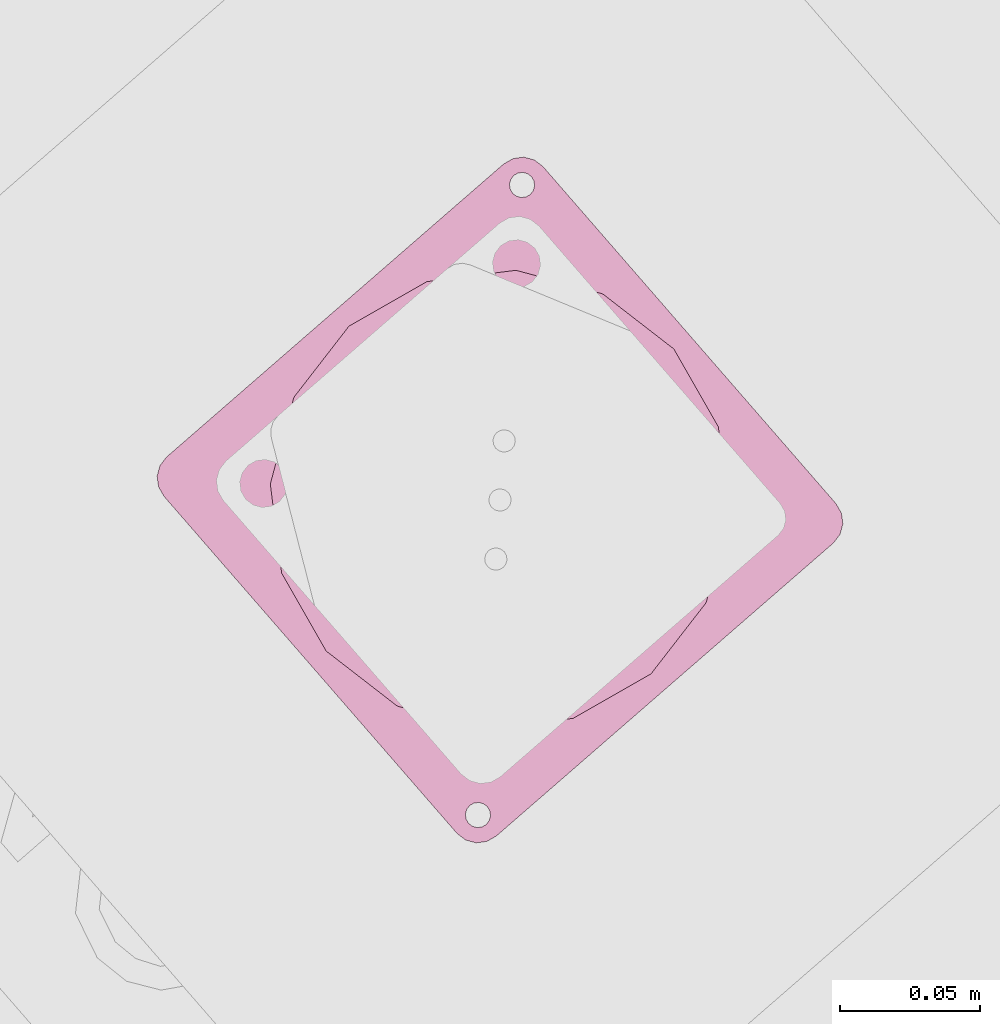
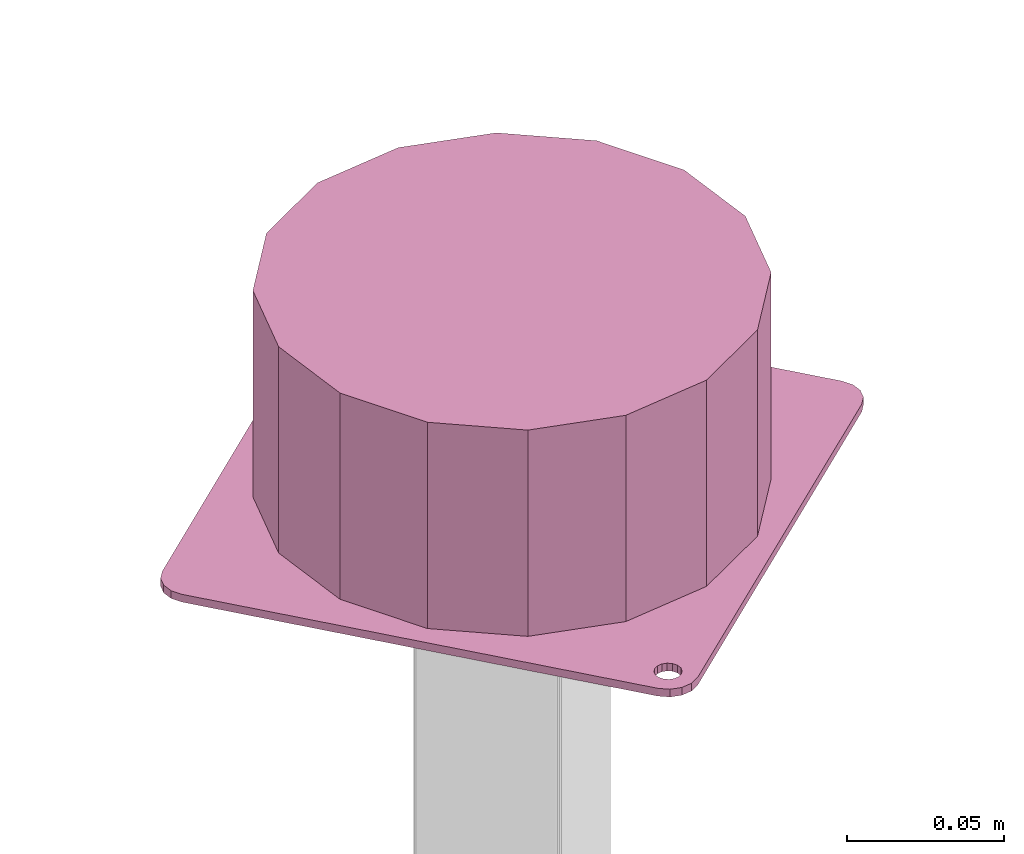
# One storey, part 122 of 124: 1 transport element.
"""IFC2X3 building model written with IfcOpenShell, lengths in millimetres."""

import ifcopenshell
import ifcopenshell.guid

model = None  # the IFC model being written
_history = None  # IfcOwnerHistory: only IFC2X3 demands one
_inside = {}  # id of a spatial element -> (the spatial element, [elements in it])
_under = {}  # id of a project, library or spatial element -> (it, [spatial elements below it])
_declared = {}  # id of a project -> (the project, [libraries it declares])
_typed = {}  # id of a type object -> (the type object, [elements of that type])
_made_of = {}  # id of a material, layer set ... -> (it, [elements and type objects made of it])


def new_model(schema):
    """Start an empty IFC model of exactly this schema.

    Asked for "IFC4X3", IfcOpenShell would pick the latest addendum, in which some entities
    have other attributes; the version numbers below select the first issue.
    IFC2X3 requires an IfcOwnerHistory on every rooted entity: one is made here for all.
    """
    global model, _history
    if schema == "IFC4X3":
        model = ifcopenshell.file(schema_version=(4, 3, 0, 0))
    else:
        model = ifcopenshell.file(schema=schema)
    _inside.clear()
    _under.clear()
    _declared.clear()
    _typed.clear()
    _made_of.clear()
    _history = None
    if model.schema == "IFC2X3":
        org = make("IfcOrganization", Name="unknown")
        user = make(
            "IfcPersonAndOrganization",
            ThePerson=make("IfcPerson", FamilyName="unknown"),
            TheOrganization=org,
        )
        app = make(
            "IfcApplication",
            ApplicationDeveloper=org,
            Version="unknown",
            ApplicationFullName="unknown",
            ApplicationIdentifier="unknown",
        )
        _history = make(
            "IfcOwnerHistory",
            OwningUser=user,
            OwningApplication=app,
            ChangeAction="ADDED",
            CreationDate=0,
        )
    return model


def make(cls, **values):
    """One entity of the class cls with the attributes given. An attribute that is None is left unset."""
    return model.create_entity(
        cls, **{name: value for name, value in values.items() if value is not None}
    )


def entity(cls, *values):
    """Any entity or typed value of the class cls, its attributes in the order of the schema. None: left unset."""
    e = model.create_entity(cls)
    for i, value in enumerate(values):
        if value is not None:
            e[i] = value
    return e


def rooted(cls, **values):
    """An entity with a GlobalId (a new one), such as an element, a storey or a relation."""
    return make(cls, GlobalId=ifcopenshell.guid.new(), OwnerHistory=_history, **values)


def si_unit(unit_type, name, prefix=None):
    """IfcSIUnit, for example si_unit("LENGTHUNIT", "METRE", prefix="MILLI")."""
    return make("IfcSIUnit", UnitType=unit_type, Prefix=prefix, Name=name)


def converted_unit(unit_type, name, factor, base, dimensions=None, offset=None):
    """IfcConversionBasedUnit, such as the inch: factor (a typed value) times the base unit."""
    return make(
        "IfcConversionBasedUnit"
        if offset is None
        else "IfcConversionBasedUnitWithOffset",
        ConversionOffset=offset,
        Dimensions=None
        if dimensions is None
        else entity("IfcDimensionalExponents", *dimensions),
        UnitType=unit_type,
        Name=name,
        ConversionFactor=make(
            "IfcMeasureWithUnit", ValueComponent=factor, UnitComponent=base
        ),
    )


def derived_unit(unit_type, elements):
    """IfcDerivedUnit: a product of units, each with its exponent."""
    return make(
        "IfcDerivedUnit",
        Elements=[
            make("IfcDerivedUnitElement", Unit=unit, Exponent=power)
            for unit, power in elements
        ],
        UnitType=unit_type,
    )


def money_unit(currency):
    """IfcMonetaryUnit."""
    return make("IfcMonetaryUnit", Currency=currency)


def assignment(units):
    """IfcUnitAssignment: the units of a project."""
    return None if units is None else make("IfcUnitAssignment", Units=units)


def point(xyz):
    """IfcCartesianPoint."""
    return None if xyz is None else make("IfcCartesianPoint", Coordinates=xyz)


def direction(xyz):
    """IfcDirection."""
    return None if xyz is None else make("IfcDirection", DirectionRatios=xyz)


def frame(location, z_axis=None, x_axis=None):
    """IfcAxis2Placement3D, a coordinate frame: its origin and axes. An axis left out is left unset."""
    return make(
        "IfcAxis2Placement3D",
        Location=point(location),
        Axis=direction(z_axis),
        RefDirection=direction(x_axis),
    )


def origin_with_axes():
    """The frame at (0, 0, 0) with the z axis (0, 0, 1) and the x axis (1, 0, 0) written out."""
    return frame((0.0, 0.0, 0.0), z_axis=(0.0, 0.0, 1.0), x_axis=(1.0, 0.0, 0.0))


def place(relative_to, where):
    """IfcLocalPlacement: puts the frame where relative to a parent placement (None: the world)."""
    return make(
        "IfcLocalPlacement", PlacementRelTo=relative_to, RelativePlacement=where
    )


def context(
    kind, dimensions, precision=None, world=None, true_north=None, identifier=None
):
    """IfcGeometricRepresentationContext, for example the 3D "Model" context."""
    return make(
        "IfcGeometricRepresentationContext",
        ContextIdentifier=identifier,
        ContextType=kind,
        CoordinateSpaceDimension=dimensions,
        Precision=precision,
        WorldCoordinateSystem=world,
        TrueNorth=true_north,
    )


def subcontext(parent, identifier, kind, view, scale=None):
    """IfcGeometricRepresentationSubContext, for example "Body" below "Model"."""
    return make(
        "IfcGeometricRepresentationSubContext",
        ContextIdentifier=identifier,
        ContextType=kind,
        ParentContext=parent,
        TargetScale=scale,
        TargetView=view,
    )


def project(units=None, contexts=None):
    """IfcProject with its units and contexts."""
    return rooted(
        "IfcProject",
        Name="project",
        RepresentationContexts=contexts,
        UnitsInContext=assignment(units),
    )


def spatial(cls, under=None, at=None, **own):
    """A site, building, storey or space (cls), placed at a placement, below another one or the project."""
    s = rooted(cls, ObjectPlacement=at, **own)
    if under is not None:
        _under.setdefault(under.id(), (under, []))[1].append(s)
    return s


def faces_of(points, faces, orient=None, outer=None):
    """IfcFace entities. A face is a list of loops; a loop is a list of indices into points, from 0.

    orient and outer hold one flag for each loop. By default every Orientation is true, the
    first loop of a face is its IfcFaceOuterBound and the others are IfcFaceBound.
    """
    made = []
    for i, loops in enumerate(faces):
        bounds = []
        for j, loop in enumerate(loops):
            is_outer = j == 0 if outer is None else outer[i][j]
            bounds.append(
                make(
                    "IfcFaceOuterBound" if is_outer else "IfcFaceBound",
                    Bound=make("IfcPolyLoop", Polygon=[points[k] for k in loop]),
                    Orientation=True if orient is None else orient[i][j],
                )
            )
        made.append(make("IfcFace", Bounds=bounds))
    return made


def faceted_brep(points, faces, orient=None, outer=None, voids=None):
    """IfcFacetedBrep: a solid bounded by flat faces; with voids (closed shells), ...WithVoids."""
    shared = [point(p) for p in points]
    hull = make("IfcClosedShell", CfsFaces=faces_of(shared, faces, orient, outer))
    if voids is None:
        return make("IfcFacetedBrep", Outer=hull)
    return make(
        "IfcFacetedBrepWithVoids",
        Outer=hull,
        Voids=[
            make(cls, CfsFaces=faces_of(shared, fs, o, b)) for cls, fs, o, b in voids
        ],
    )


def shape(context_of_items, identifier, shape_type, items):
    """IfcShapeRepresentation: the items that make up one representation, for example the "Body"."""
    return make(
        "IfcShapeRepresentation",
        ContextOfItems=context_of_items,
        RepresentationIdentifier=identifier,
        RepresentationType=shape_type,
        Items=items,
    )


def material(Name=None, Category=None):
    """IfcMaterial."""
    return make("IfcMaterial", Name=Name, Category=Category)


def material_list(materials):
    """IfcMaterialList."""
    return make("IfcMaterialList", Materials=materials)


def made_of(thing, what):
    """Note that an element or type object is made of a material, layer set ...; save() writes the relation."""
    if what is not None:
        _made_of.setdefault(what.id(), (what, []))[1].append(thing)
    return thing


def type_object(cls, material=None, **own):
    """A type object (cls), such as IfcWallType, which elements share."""
    return made_of(rooted(cls, **own), material)


def element(
    cls,
    number,
    at=None,
    inside=None,
    cuts=None,
    type_object=None,
    material=None,
    context=None,
    identifier="Body",
    shape_type=None,
    held_by="IfcProductDefinitionShape",
    body=None,
    shapes=None,
    **own,
):
    """One element of the class cls, such as IfcWall. Its Tag is "e" and its number.

    at: its placement. inside: the storey or other place that contains it. cuts: it is an
    opening in that element (IfcRelVoidsElement). A single representation is given by context,
    identifier, shape_type and body (its items); several are given by shapes. held_by: the class
    of the entity that holds the representations. save() writes the other relations.
    """
    e = rooted(cls, Tag="e%d" % number, ObjectPlacement=at, **own)
    if body is not None:
        shapes = [shape(context, identifier, shape_type, body)]
    if shapes is not None:
        e.Representation = make(held_by, Representations=shapes)
    if inside is not None:
        _inside.setdefault(inside.id(), (inside, []))[1].append(e)
    if cuts is not None:
        rooted(
            "IfcRelVoidsElement", RelatingBuildingElement=cuts, RelatedOpeningElement=e
        )
    if type_object is not None:
        _typed.setdefault(type_object.id(), (type_object, []))[1].append(e)
    return made_of(e, material)


def aggregate(whole, parts):
    """IfcRelAggregates: a whole, such as a stair, and the parts it consists of."""
    return rooted("IfcRelAggregates", RelatingObject=whole, RelatedObjects=parts)


def save(model, path):
    """Write the relations noted so far, then the file.

    IfcRelAggregates (storeys below a building ...), IfcRelContainedInSpatialStructure (elements
    in a storey), IfcRelDefinesByType, IfcRelAssociatesMaterial and IfcRelDeclares: one each for
    every whole, place, type object, material and project.
    """
    for whole, parts in _under.values():
        aggregate(whole, parts)
    for where, things in _inside.values():
        rooted(
            "IfcRelContainedInSpatialStructure",
            RelatedElements=things,
            RelatingStructure=where,
        )
    for kind, things in _typed.values():
        rooted("IfcRelDefinesByType", RelatedObjects=things, RelatingType=kind)
    for what, things in _made_of.values():
        rooted("IfcRelAssociatesMaterial", RelatedObjects=things, RelatingMaterial=what)
    for by, libraries in _declared.values():
        rooted("IfcRelDeclares", RelatingContext=by, RelatedDefinitions=libraries)
    model.write(path)


model = new_model("IFC2X3")

# Units and contexts
model_context = context("Model", 3, precision=1e-05, world=origin_with_axes(), true_north=direction((0.0, 1.0)))
body_context = subcontext(model_context, "Body", "Model", "MODEL_VIEW")
ifc_project = project(units=[si_unit("LENGTHUNIT", "METRE", prefix="MILLI"), si_unit("AREAUNIT", "SQUARE_METRE"), si_unit("VOLUMEUNIT", "CUBIC_METRE"), converted_unit("PLANEANGLEUNIT", "DEGREE", entity("IfcPlaneAngleMeasure", 0.0174532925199), si_unit("PLANEANGLEUNIT", "RADIAN"), dimensions=[0, 0, 0, 0, 0, 0, 0]), si_unit("SOLIDANGLEUNIT", "STERADIAN"), money_unit("EUR"), converted_unit("TIMEUNIT", "Year", entity("IfcTimeMeasure", 31556926.0), si_unit("TIMEUNIT", "SECOND"), dimensions=[0, 0, 1, 0, 0, 0, 0]), si_unit("MASSUNIT", "GRAM", prefix="KILO"), si_unit("THERMODYNAMICTEMPERATUREUNIT", "DEGREE_CELSIUS"), si_unit("LUMINOUSINTENSITYUNIT", "LUMEN"), si_unit("ENERGYUNIT", "JOULE", prefix="MEGA"), derived_unit("THERMALCONDUCTANCEUNIT", [(si_unit("POWERUNIT", "WATT"), 1), (si_unit("LENGTHUNIT", "METRE"), -1), (si_unit("THERMODYNAMICTEMPERATUREUNIT", "KELVIN"), -1)]), derived_unit("SPECIFICHEATCAPACITYUNIT", [(si_unit("ENERGYUNIT", "JOULE"), 1), (si_unit("MASSUNIT", "GRAM", prefix="KILO"), -1), (si_unit("THERMODYNAMICTEMPERATUREUNIT", "KELVIN"), -1)]), derived_unit("MASSDENSITYUNIT", [(si_unit("MASSUNIT", "GRAM", prefix="KILO"), 1), (si_unit("VOLUMEUNIT", "CUBIC_METRE"), -1)])], contexts=[model_context])

# Site, building, storey
site_placement = place(None, origin_with_axes())
site = spatial("IfcSite", under=ifc_project, at=site_placement, Name="Site", CompositionType="ELEMENT")
building_placement = place(site_placement, origin_with_axes())
building = spatial("IfcBuilding", under=site, at=building_placement, Name="Building", CompositionType="ELEMENT")
storey_placement = place(building_placement, frame((0.0, 0.0, -1615.0), z_axis=(0.0, 0.0, 1.0), x_axis=(1.0, 0.0, 0.0)))
storey = spatial("IfcBuildingStorey", under=building, at=storey_placement, Name="0  korrus", CompositionType="ELEMENT", Elevation=-1615.0)

# Transport element
ifc_material = material(Name="IFC Building Material")
ifc_material_list = material_list([ifc_material, ifc_material])
transport_element_type = type_object("IfcTransportElementType", Name="KONE_Buffer_PU_165x80D_CAR:KONE_Buffer_PU_165x80D", PredefinedType="NOTDEFINED")
transport_element_placement = place(storey_placement, frame((147240.218961, 78455.1797049, -503.0), z_axis=(0.0, 0.0, 1.0), x_axis=(-0.656059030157, 0.754709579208, 0.0)))
element("IfcTransportElement", 1, at=transport_element_placement, inside=storey, type_object=transport_element_type, material=ifc_material_list, Name="KONE_Buffer_PU_165x80D_CAR:KONE_Buffer_PU_165x80D", ObjectType="KONE_Buffer_PU_165x80D", CapacityByNumber=0.0, CapacityByWeight=0.0, OperationType="ELEVATOR", context=body_context, shape_type="Brep", body=[
    faceted_brep([(171.595272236, 181.595272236, 0.0), (11.5952722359, 181.595272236, 0.0), (11.5952722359, 181.595272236, 3.0), (171.595272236, 181.595272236, 3.0), (175.42210656, 180.834067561, 0.0), (178.666340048, 178.666340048, 0.0), (180.834067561, 175.42210656, 0.0), (181.595272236, 171.595272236, 0.0), (181.595272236, 11.5952722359, 0.0), (180.834067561, 7.76843791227, 0.0), (178.666340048, 4.52420442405, 0.0), (175.42210656, 2.35647691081, 0.0), (171.595272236, 1.59527223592, 0.0), (11.5952722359, 1.59527223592, 0.0), (7.76843791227, 2.35647691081, 0.0), (4.52420442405, 4.52420442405, 0.0), (2.35647691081, 7.76843791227, 0.0), (1.59527223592, 11.5952722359, 0.0), (1.59527223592, 171.595272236, 0.0), (2.35647691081, 175.42210656, 0.0), (4.52420442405, 178.666340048, 0.0), (7.76843791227, 180.834067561, 0.0), (16.0952722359, 171.595272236, 0.0), (15.7527301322, 173.317347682, 0.0), (14.7772527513, 174.777252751, 0.0), (13.3173476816, 175.752730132, 0.0), (11.5952722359, 176.095272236, 0.0), (9.87319679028, 175.752730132, 0.0), (8.41329172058, 174.777252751, 0.0), (7.43781433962, 173.317347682, 0.0), (7.09527223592, 171.595272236, 0.0), (7.43781433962, 169.87319679, 0.0), (8.41329172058, 168.413291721, 0.0), (9.87319679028, 167.43781434, 0.0), (11.5952722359, 167.095272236, 0.0), (13.3173476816, 167.43781434, 0.0), (14.7772527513, 168.413291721, 0.0), (15.7527301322, 169.87319679, 0.0), (167.095272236, 11.5952722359, 0.0), (167.43781434, 9.87319679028, 0.0), (168.413291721, 8.41329172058, 0.0), (169.87319679, 7.43781433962, 0.0), (171.595272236, 7.09527223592, 0.0), (173.317347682, 7.43781433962, 0.0), (174.777252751, 8.41329172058, 0.0), (175.752730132, 9.87319679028, 0.0), (176.095272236, 11.5952722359, 0.0), (175.752730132, 13.3173476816, 0.0), (174.777252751, 14.7772527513, 0.0), (173.317347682, 15.7527301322, 0.0), (171.595272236, 16.0952722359, 0.0), (169.87319679, 15.7527301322, 0.0), (168.413291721, 14.7772527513, 0.0), (167.43781434, 13.3173476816, 0.0), (94.8452722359, 91.5952722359, 0.0), (94.5978807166, 92.8389933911, 0.0), (93.8933692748, 93.8933692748, 0.0), (92.8389933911, 94.5978807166, 0.0), (91.5952722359, 94.8452722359, 0.0), (90.3515510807, 94.5978807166, 0.0), (89.2971751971, 93.8933692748, 0.0), (88.5926637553, 92.8389933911, 0.0), (88.3452722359, 91.5952722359, 0.0), (88.5926637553, 90.3515510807, 0.0), (89.2971751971, 89.2971751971, 0.0), (90.3515510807, 88.5926637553, 0.0), (91.5952722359, 88.3452722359, 0.0), (92.8389933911, 88.5926637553, 0.0), (93.8933692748, 89.2971751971, 0.0), (94.5978807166, 90.3515510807, 0.0), (7.76843791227, 180.834067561, 3.0), (4.52420442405, 178.666340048, 3.0), (2.35647691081, 175.42210656, 3.0), (1.59527223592, 171.595272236, 3.0), (1.59527223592, 11.5952722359, 3.0), (2.35647691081, 7.76843791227, 3.0), (4.52420442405, 4.52420442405, 3.0), (7.76843791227, 2.35647691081, 3.0), (11.5952722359, 1.59527223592, 3.0), (171.595272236, 1.59527223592, 3.0), (175.42210656, 2.35647691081, 3.0), (178.666340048, 4.52420442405, 3.0), (180.834067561, 7.76843791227, 3.0), (181.595272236, 11.5952722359, 3.0), (181.595272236, 171.595272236, 3.0), (180.834067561, 175.42210656, 3.0), (178.666340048, 178.666340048, 3.0), (175.42210656, 180.834067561, 3.0), (16.0952722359, 171.595272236, 3.0), (15.7527301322, 169.87319679, 3.0), (14.7772527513, 168.413291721, 3.0), (13.3173476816, 167.43781434, 3.0), (11.5952722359, 167.095272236, 3.0), (9.87319679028, 167.43781434, 3.0), (8.41329172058, 168.413291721, 3.0), (7.43781433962, 169.87319679, 3.0), (7.09527223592, 171.595272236, 3.0), (7.43781433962, 173.317347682, 3.0), (8.41329172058, 174.777252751, 3.0), (9.87319679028, 175.752730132, 3.0), (11.5952722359, 176.095272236, 3.0), (13.3173476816, 175.752730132, 3.0), (14.7772527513, 174.777252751, 3.0), (15.7527301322, 173.317347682, 3.0), (167.095272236, 11.5952722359, 3.0), (167.43781434, 13.3173476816, 3.0), (168.413291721, 14.7772527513, 3.0), (169.87319679, 15.7527301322, 3.0), (171.595272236, 16.0952722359, 3.0), (173.317347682, 15.7527301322, 3.0), (174.777252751, 14.7772527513, 3.0), (175.752730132, 13.3173476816, 3.0), (176.095272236, 11.5952722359, 3.0), (175.752730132, 9.87319679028, 3.0), (174.777252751, 8.41329172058, 3.0), (173.317347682, 7.43781433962, 3.0), (171.595272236, 7.09527223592, 3.0), (169.87319679, 7.43781433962, 3.0), (168.413291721, 8.41329172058, 3.0), (167.43781434, 9.87319679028, 3.0), (94.8452722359, 91.5952722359, 3.0), (94.5978807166, 90.3515510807, 3.0), (93.8933692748, 89.2971751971, 3.0), (92.8389933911, 88.5926637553, 3.0), (91.5952722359, 88.3452722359, 3.0), (90.3515510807, 88.5926637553, 3.0), (89.2971751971, 89.2971751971, 3.0), (88.5926637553, 90.3515510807, 3.0), (88.3452722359, 91.5952722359, 3.0), (88.5926637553, 92.8389933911, 3.0), (89.2971751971, 93.8933692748, 3.0), (90.3515510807, 94.5978807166, 3.0), (91.5952722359, 94.8452722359, 3.0), (92.8389933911, 94.5978807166, 3.0), (93.8933692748, 93.8933692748, 3.0), (94.5978807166, 92.8389933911, 3.0)], [[[0, 1, 2, 3]], [[0, 4, 5, 6, 7, 8, 9, 10, 11, 12, 13, 14, 15, 16, 17, 18, 19, 20, 21, 1], [22, 23, 24, 25, 26, 27, 28, 29, 30, 31, 32, 33, 34, 35, 36, 37], [38, 39, 40, 41, 42, 43, 44, 45, 46, 47, 48, 49, 50, 51, 52, 53], [54, 55, 56, 57, 58, 59, 60, 61, 62, 63, 64, 65, 66, 67, 68, 69]], [[1, 21, 70, 2]], [[3, 2, 70, 71, 72, 73, 74, 75, 76, 77, 78, 79, 80, 81, 82, 83, 84, 85, 86, 87], [88, 89, 90, 91, 92, 93, 94, 95, 96, 97, 98, 99, 100, 101, 102, 103], [104, 105, 106, 107, 108, 109, 110, 111, 112, 113, 114, 115, 116, 117, 118, 119], [120, 121, 122, 123, 124, 125, 126, 127, 128, 129, 130, 131, 132, 133, 134, 135]], [[4, 0, 3, 87]], [[5, 4, 87, 86]], [[6, 5, 86, 85]], [[7, 6, 85, 84]], [[8, 7, 84, 83]], [[9, 8, 83, 82]], [[10, 9, 82, 81]], [[11, 10, 81, 80]], [[12, 11, 80, 79]], [[13, 12, 79, 78]], [[14, 13, 78, 77]], [[15, 14, 77, 76]], [[16, 15, 76, 75]], [[17, 16, 75, 74]], [[18, 17, 74, 73]], [[19, 18, 73, 72]], [[20, 19, 72, 71]], [[21, 20, 71, 70]], [[23, 22, 88, 103]], [[24, 23, 103, 102]], [[25, 24, 102, 101]], [[26, 25, 101, 100]], [[27, 26, 100, 99]], [[28, 27, 99, 98]], [[29, 28, 98, 97]], [[30, 29, 97, 96]], [[31, 30, 96, 95]], [[32, 31, 95, 94]], [[33, 32, 94, 93]], [[34, 33, 93, 92]], [[35, 34, 92, 91]], [[36, 35, 91, 90]], [[37, 36, 90, 89]], [[22, 37, 89, 88]], [[39, 38, 104, 119]], [[40, 39, 119, 118]], [[41, 40, 118, 117]], [[42, 41, 117, 116]], [[43, 42, 116, 115]], [[44, 43, 115, 114]], [[45, 44, 114, 113]], [[46, 45, 113, 112]], [[47, 46, 112, 111]], [[48, 47, 111, 110]], [[49, 48, 110, 109]], [[50, 49, 109, 108]], [[51, 50, 108, 107]], [[52, 51, 107, 106]], [[53, 52, 106, 105]], [[38, 53, 105, 104]], [[55, 54, 120, 135]], [[56, 55, 135, 134]], [[57, 56, 134, 133]], [[58, 57, 133, 132]], [[59, 58, 132, 131]], [[60, 59, 131, 130]], [[61, 60, 130, 129]], [[62, 61, 129, 128]], [[63, 62, 128, 127]], [[64, 63, 127, 126]], [[65, 64, 126, 125]], [[66, 65, 125, 124]], [[67, 66, 124, 123]], [[68, 67, 123, 122]], [[69, 68, 122, 121]], [[54, 69, 121, 120]]]),
    faceted_brep([(9.0952722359, 91.5952722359, 3.0), (15.3752108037, 60.0238890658, 3.0), (15.3752108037, 60.0238890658, 83.0), (9.0952722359, 91.5952722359, 83.0), (15.3752108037, 123.166655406, 3.0), (33.258962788, 149.931581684, 3.0), (60.0238890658, 167.815333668, 3.0), (91.5952722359, 174.095272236, 3.0), (123.166655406, 167.815333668, 3.0), (149.931581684, 149.931581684, 3.0), (167.815333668, 123.166655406, 3.0), (174.095272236, 91.5952722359, 3.0), (167.815333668, 60.0238890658, 3.0), (149.931581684, 33.258962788, 3.0), (123.166655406, 15.3752108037, 3.0), (91.5952722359, 9.09527223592, 3.0), (60.0238890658, 15.3752108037, 3.0), (33.258962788, 33.258962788, 3.0), (33.258962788, 33.258962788, 83.0), (60.0238890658, 15.3752108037, 83.0), (91.5952722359, 9.09527223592, 83.0), (123.166655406, 15.3752108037, 83.0), (149.931581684, 33.258962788, 83.0), (167.815333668, 60.0238890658, 83.0), (174.095272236, 91.5952722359, 83.0), (167.815333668, 123.166655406, 83.0), (149.931581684, 149.931581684, 83.0), (123.166655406, 167.815333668, 83.0), (91.5952722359, 174.095272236, 83.0), (60.0238890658, 167.815333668, 83.0), (33.258962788, 149.931581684, 83.0), (15.3752108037, 123.166655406, 83.0)], [[[0, 1, 2, 3]], [[0, 4, 5, 6, 7, 8, 9, 10, 11, 12, 13, 14, 15, 16, 17, 1]], [[1, 17, 18, 2]], [[3, 2, 18, 19, 20, 21, 22, 23, 24, 25, 26, 27, 28, 29, 30, 31]], [[4, 0, 3, 31]], [[5, 4, 31, 30]], [[6, 5, 30, 29]], [[7, 6, 29, 28]], [[8, 7, 28, 27]], [[9, 8, 27, 26]], [[10, 9, 26, 25]], [[11, 10, 25, 24]], [[12, 11, 24, 23]], [[13, 12, 23, 22]], [[14, 13, 22, 21]], [[15, 14, 21, 20]], [[16, 15, 20, 19]], [[17, 16, 19, 18]]]),
])

save(model, "model.ifc")
